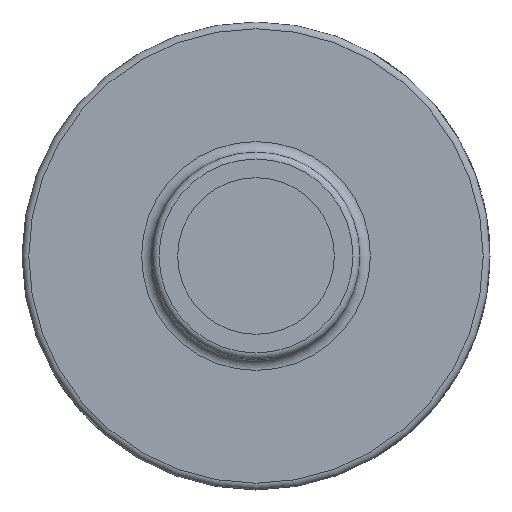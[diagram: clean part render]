
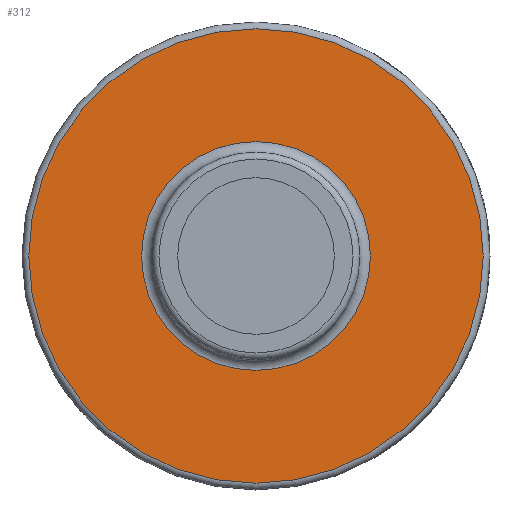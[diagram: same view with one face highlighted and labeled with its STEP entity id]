
A CAD part, left-side view. The second image highlights one B-rep face of the part: STEP entity #312.
In plain terms, the highlighted planar face has unit normal (-1, 0, 0).
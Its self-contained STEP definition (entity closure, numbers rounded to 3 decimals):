
#312 = ADVANCED_FACE( '', ( #789, #790 ), #791, .T. );
#789 = FACE_OUTER_BOUND( '', #1512, .T. );
#790 = FACE_BOUND( '', #1513, .T. );
#791 = PLANE( '', #1514 );
#1512 = EDGE_LOOP( '', ( #3376 ) );
#1513 = EDGE_LOOP( '', ( #3377 ) );
#1514 = AXIS2_PLACEMENT_3D( '', #3378, #3379, #3380 );
#3376 = ORIENTED_EDGE( '', *, *, #4977, .T. );
#3377 = ORIENTED_EDGE( '', *, *, #4978, .F. );
#3378 = CARTESIAN_POINT( '', ( 10.986, 0., 16.955 ) );
#3379 = DIRECTION( '', ( -1., 0., 0. ) );
#3380 = DIRECTION( '', ( 0., 0., 1. ) );
#4977 = EDGE_CURVE( '', #5833, #5833, #5834, .T. );
#4978 = EDGE_CURVE( '', #5835, #5835, #5836, .T. );
#5833 = VERTEX_POINT( '', #7256 );
#5834 = CIRCLE( '', #7257, 16.955 );
#5835 = VERTEX_POINT( '', #7258 );
#5836 = CIRCLE( '', #7259, 8.541 );
#7256 = CARTESIAN_POINT( '', ( 10.986, 0., 16.955 ) );
#7257 = AXIS2_PLACEMENT_3D( '', #9106, #9107, #9108 );
#7258 = CARTESIAN_POINT( '', ( 10.986, 0., 8.541 ) );
#7259 = AXIS2_PLACEMENT_3D( '', #9109, #9110, #9111 );
#9106 = CARTESIAN_POINT( '', ( 10.986, 0., 0. ) );
#9107 = DIRECTION( '', ( -1., 0., 0. ) );
#9108 = DIRECTION( '', ( 0., 0., 1. ) );
#9109 = CARTESIAN_POINT( '', ( 10.986, 0., 0. ) );
#9110 = DIRECTION( '', ( -1., 0., 0. ) );
#9111 = DIRECTION( '', ( 0., 0., 1. ) );
